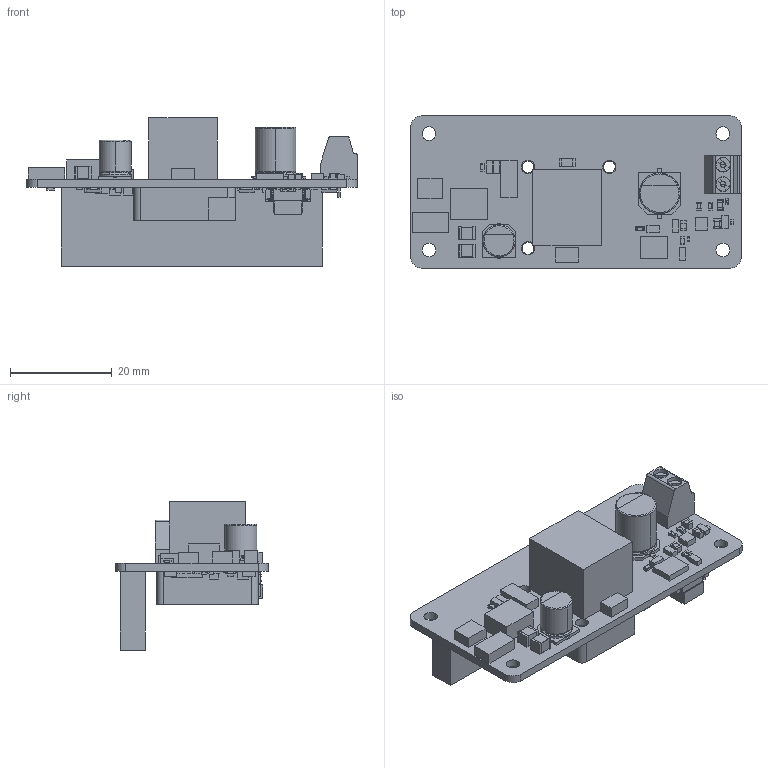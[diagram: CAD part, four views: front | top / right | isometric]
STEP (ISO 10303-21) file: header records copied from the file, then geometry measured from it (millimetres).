
FILE_DESCRIPTION((''),'2;1');
FILE_NAME('RA023_PCBA','2024-06-27T16:22:21',('admin'),(''),'CREO PARAMETRIC BY PTC INC, 2024063','CREO PARAMETRIC BY PTC INC, 2024063','');
FILE_SCHEMA(('CONFIG_CONTROL_DESIGN','SHAPE_APPEARANCE_LAYERS_GROUPS'));
Products named in the file (1): RA023_PCBA
Bounding box: 65.01 x 30.01 x 29.2 mm (x, y, z)
Volume: 11415 mm3; surface area: 11832 mm2
Topology: 8 solids, 83 shells, 4526 faces, 10563 edges, 5998 vertices
Faces by surface type: plane 2194, cylinder 1589, sphere 704, extrusion 18, torus 14, cone 6, bspline 1
Entity records: 181930 total; most frequent: DIRECTION 22370, CARTESIAN_POINT 21806, ORIENTED_EDGE 20564, PRESENTATION_STYLE_ASSIGNMENT 13863, STYLED_ITEM 10383, CURVE_STYLE 10300, EDGE_CURVE 10282, AXIS2_PLACEMENT_3D 7762
